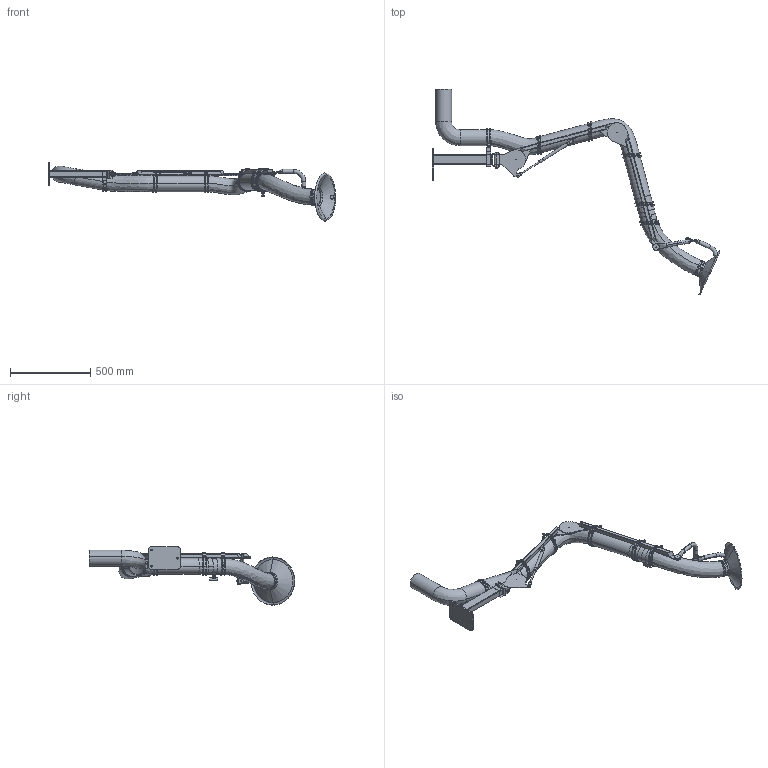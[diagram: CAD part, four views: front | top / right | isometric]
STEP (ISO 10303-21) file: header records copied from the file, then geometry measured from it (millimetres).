
FILE_DESCRIPTION((''),'2;1');
FILE_NAME('PSR_2000-100_D_EXC','2022-10-04T13:17:54',('Tomas Bellgran'),(''),'CREO PARAMETRIC BY PTC INC, 2018260','CREO PARAMETRIC BY PTC INC, 2018260','');
FILE_SCHEMA(('AUTOMOTIVE_DESIGN { 1 0 10303 214 1 1 1 1 }'));
Length unit declared in the file: millimetre
Products named in the file (40): 141554; 141580; 141581; 122701; 141512; 141556; 141582; 141587; 141522; 121391; 131150; 139380; 131151; 131170; 144356; 141589; 134343_AF0; G_P136_WELD-REF; 141590; 122717_LIGHT; 120127_COMPL_LIGHT; 130315; ROD_STAB_8-160-REF; 131095; 130320_AF29; 131145; 131205; 122291; 122295; 131215; 131219; 131220; 131200; 121060; 121070; 124460; 107521-11; 121000_LIGHT; 107521-20; PSR_2000-100_D_EXC
Assembly tree (53 placements, depth 4):
  PSR_2000-100_D_EXC
    141512
      141554
      141580
      141581
      122701
    141522
      141556
      141582
      141587
    121391  x4
    131150
    131170
      139380
      131151
    144356  x2
    141590
      141589
      134343_AF0
      G_P136_WELD-REF
    122717_LIGHT
    120127_COMPL_LIGHT
    130320_AF29
      130315
      ROD_STAB_8-160-REF
      131095  x2
    131145  x2
    131200
      131205
      122295
        122291
      131220
        131215
        131219
    121060
    121070
    124460  x5
    107521-11  x5
    121000_LIGHT
    107521-20
Bounding box: 1785.47 x 1276.27 x 362.95 mm (x, y, z)
Volume: 22714625 mm3; surface area: 1706007.8 mm2
Topology: 45 solids, 45 shells, 1085 faces, 2612 edges, 1625 vertices
Faces by surface type: plane 413, cylinder 322, bspline 222, cone 56, torus 34, extrusion 23, revolution 13, sphere 2
Entity records: 43036 total; most frequent: CARTESIAN_POINT 15592, DIRECTION 3365, ORIENTED_EDGE 3248, PRESENTATION_STYLE_ASSIGNMENT 2286, STYLED_ITEM 2259, CURVE_STYLE 1652, EDGE_CURVE 1624, AXIS2_PLACEMENT_3D 1298
